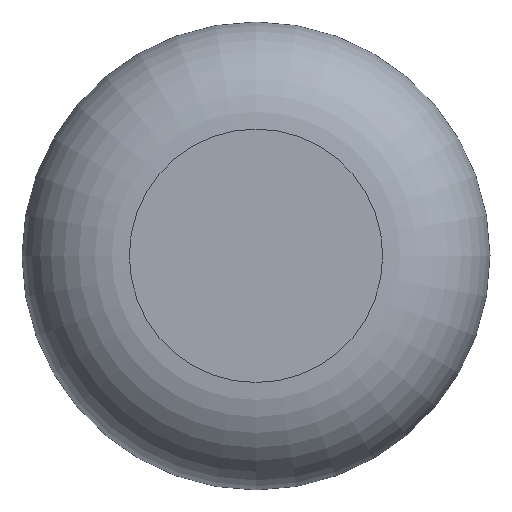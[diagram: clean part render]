
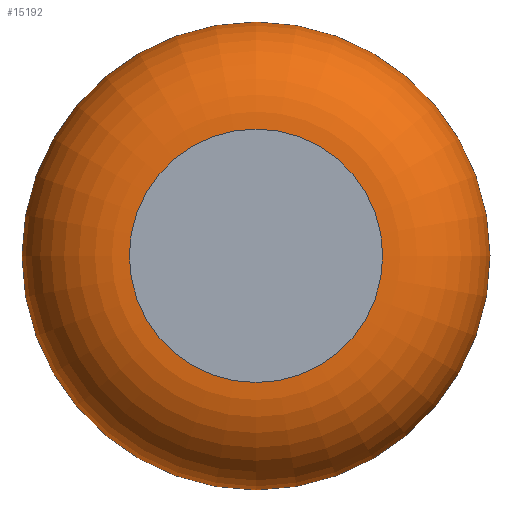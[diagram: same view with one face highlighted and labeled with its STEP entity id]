
A CAD part, top view. The second image highlights one B-rep face of the part: STEP entity #15192.
In plain terms, the highlighted toroidal (fillet/blend) face has major radius 8.25 mm and minor radius 7 mm.
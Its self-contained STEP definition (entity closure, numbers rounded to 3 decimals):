
#9839=TOROIDAL_SURFACE('',#31472,8.25,7.);
#15192=ADVANCED_FACE('',(#17297,#17298),#9839,.T.);
#17297=FACE_BOUND('',#17478,.T.);
#17298=FACE_BOUND('',#17479,.T.);
#17478=EDGE_LOOP('',(#18782));
#17479=EDGE_LOOP('',(#18783));
#18782=ORIENTED_EDGE('',*,*,#27775,.T.);
#18783=ORIENTED_EDGE('',*,*,#27774,.F.);
#25549=VERTEX_POINT('',#38308);
#25550=VERTEX_POINT('',#38311);
#27774=EDGE_CURVE('',#25549,#25549,#31157,.T.);
#27775=EDGE_CURVE('',#25550,#25550,#31158,.T.);
#31157=CIRCLE('',#31469,14.788);
#31158=CIRCLE('',#31471,8.25);
#31469=AXIS2_PLACEMENT_3D('',#38307,#32892,#32893);
#31471=AXIS2_PLACEMENT_3D('',#38310,#32896,#32897);
#31472=AXIS2_PLACEMENT_3D('',#38312,#32898,#32899);
#32892=DIRECTION('',(0.,0.,-1.));
#32893=DIRECTION('',(0.,1.,0.));
#32896=DIRECTION('',(0.,0.,-1.));
#32897=DIRECTION('',(0.,1.,0.));
#32898=DIRECTION('',(0.,0.,-1.));
#32899=DIRECTION('',(0.,1.,0.));
#38307=CARTESIAN_POINT('',(1.28,0.,3.701));
#38308=CARTESIAN_POINT('',(1.28,14.788,3.701));
#38310=CARTESIAN_POINT('',(1.28,0.,13.201));
#38311=CARTESIAN_POINT('',(1.28,8.25,13.201));
#38312=CARTESIAN_POINT('',(1.28,0.,6.201));
